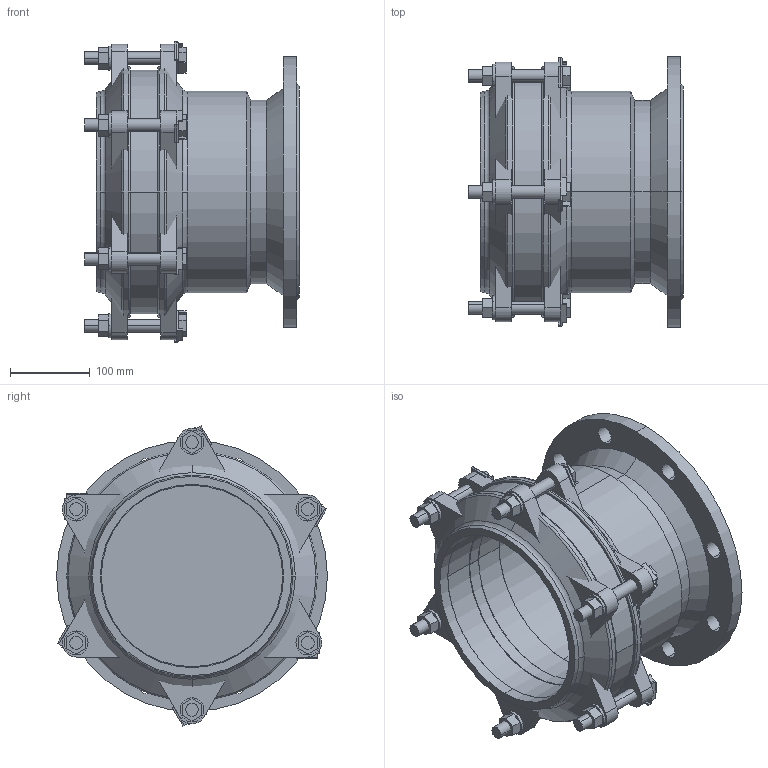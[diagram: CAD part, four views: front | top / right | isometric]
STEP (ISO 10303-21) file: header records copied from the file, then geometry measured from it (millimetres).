
FILE_DESCRIPTION(('STEP AP214'),'1');
FILE_NAME('EM000056 DN 200.STP','2015-01-29T13:53:17',(' '),(' '),'Spatial InterOp 3D',' ',' ');
FILE_SCHEMA(('automotive_design'));
Length unit declared in the file: millimetre
Products named in the file (58): 3D-Objekt
Bounding box: 269 x 340 x 376.92 mm (x, y, z)
Volume: 5487909.3 mm3; surface area: 1264864.5 mm2
Topology: 58 solids, 58 shells, 429 faces, 936 edges, 622 vertices
Faces by surface type: plane 295, cylinder 104, cone 18, torus 12
Entity records: 16572 total; most frequent: DIRECTION 2184, CARTESIAN_POINT 2045, ORIENTED_EDGE 1872, EDGE_CURVE 936, AXIS2_PLACEMENT_3D 761, LINE 662, VECTOR 662, VERTEX_POINT 622
